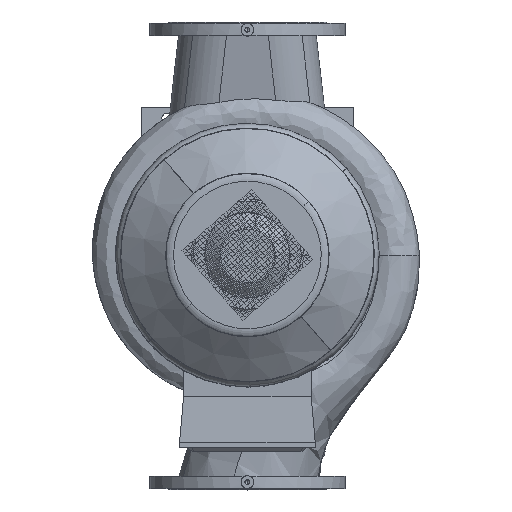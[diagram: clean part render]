
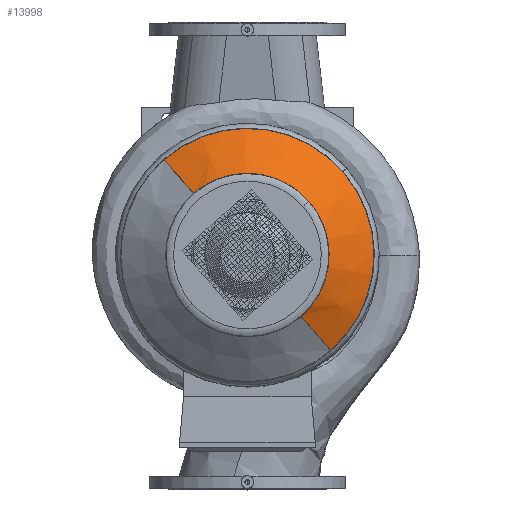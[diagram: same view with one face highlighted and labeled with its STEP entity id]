
A CAD part, top view. The second image highlights one B-rep face of the part: STEP entity #13998.
In plain terms, the highlighted conical face has half-angle 51.529 degrees and reference radius 245.506 mm.
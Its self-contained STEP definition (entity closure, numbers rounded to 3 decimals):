
#13998=ADVANCED_FACE('',(#31082),#31083,.T.);
#31082=FACE_OUTER_BOUND('',#55560,.T.);
#31083=CONICAL_SURFACE('',#55561,245.506,0.899);
#55560=EDGE_LOOP('',(#98550,#98551,#98552,#98553,#98554,#98555));
#55561=AXIS2_PLACEMENT_3D('',#98556,#98557,#98558);
#98550=ORIENTED_EDGE('',*,*,#104701,.T.);
#98551=ORIENTED_EDGE('',*,*,#104695,.F.);
#98552=ORIENTED_EDGE('',*,*,#110605,.F.);
#98553=ORIENTED_EDGE('',*,*,#104704,.T.);
#98554=ORIENTED_EDGE('',*,*,#110603,.T.);
#98555=ORIENTED_EDGE('',*,*,#104711,.T.);
#98556=CARTESIAN_POINT('',(311.248,0.0,0.0));
#98557=DIRECTION('',(-1.0,-0.0,-0.0));
#98558=DIRECTION('',(0.0,1.0,0.0));
#104695=EDGE_CURVE('',#116331,#116334,#116335,.T.);
#104701=EDGE_CURVE('',#116344,#116334,#116345,.T.);
#104704=EDGE_CURVE('',#116350,#116348,#116351,.T.);
#104711=EDGE_CURVE('',#116355,#116344,#116362,.T.);
#110603=EDGE_CURVE('',#116348,#116355,#124234,.T.);
#110605=EDGE_CURVE('',#116350,#116331,#124236,.T.);
#116331=VERTEX_POINT('',#135531);
#116334=VERTEX_POINT('',#135534);
#116335=CIRCLE('',#135535,192.349);
#116344=VERTEX_POINT('',#135544);
#116345=LINE('',#135545,#135546);
#116348=VERTEX_POINT('',#135549);
#116350=VERTEX_POINT('',#135551);
#116351=LINE('',#135552,#135553);
#116355=VERTEX_POINT('',#135557);
#116362=CIRCLE('',#135564,298.664);
#124234=CIRCLE('',#147724,298.664);
#124236=CIRCLE('',#147726,192.349);
#135531=CARTESIAN_POINT('',(353.488,0.,-192.349));
#135534=CARTESIAN_POINT('',(353.488,192.349,0.0));
#135535=AXIS2_PLACEMENT_3D('',#152529,#152530,#152531);
#135544=CARTESIAN_POINT('',(269.008,298.664,0.0));
#135545=CARTESIAN_POINT('',(311.248,245.506,0.));
#135546=VECTOR('',#152544,1.0);
#135549=CARTESIAN_POINT('',(269.008,-298.664,0.));
#135551=CARTESIAN_POINT('',(353.488,-192.349,0.));
#135552=CARTESIAN_POINT('',(311.248,-245.506,0.));
#135553=VECTOR('',#152551,1.0);
#135557=CARTESIAN_POINT('',(269.008,0.,-298.664));
#135564=AXIS2_PLACEMENT_3D('',#152567,#152568,#152569);
#147724=AXIS2_PLACEMENT_3D('',#156490,#156491,#156492);
#147726=AXIS2_PLACEMENT_3D('',#156493,#156494,#156495);
#152529=CARTESIAN_POINT('',(353.488,0.0,0.0));
#152530=DIRECTION('',(1.0,0.0,0.0));
#152531=DIRECTION('',(0.0,1.0,0.0));
#152544=DIRECTION('',(0.622,-0.783,0.));
#152551=DIRECTION('',(-0.622,-0.783,0.));
#152567=CARTESIAN_POINT('',(269.008,0.0,0.0));
#152568=DIRECTION('',(1.0,0.0,0.0));
#152569=DIRECTION('',(0.0,1.0,0.0));
#156490=CARTESIAN_POINT('',(269.008,0.0,0.0));
#156491=DIRECTION('',(1.0,0.0,0.0));
#156492=DIRECTION('',(0.0,1.0,0.0));
#156493=CARTESIAN_POINT('',(353.488,0.0,0.0));
#156494=DIRECTION('',(1.0,0.0,0.0));
#156495=DIRECTION('',(0.0,1.0,0.0));
